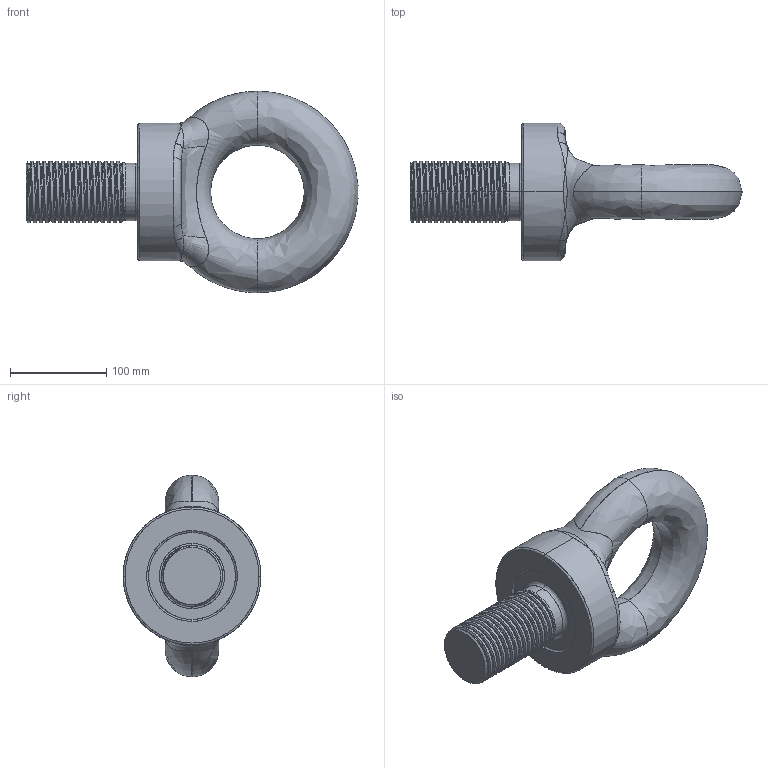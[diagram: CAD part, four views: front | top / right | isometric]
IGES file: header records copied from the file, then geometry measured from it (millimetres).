
Start section: SolidWorks IGES file using analytic representation for surfaces
Global section: file name: C:\Users\Brenton\Documents\Townley\Eye Bolts\Imperial\EBW2500\EBW2500.IGS; native system: SolidWorks 2012; preprocessor: SolidWorks 2012; author: Brenton; date: 140307.131346; units: millimetre
Bounding box: 344.3 x 143 x 209 mm (x, y, z)
Surface area: 146710 mm2 (no closed solid volume)
Topology: 0 solids, 0 shells, 79 faces, 2899 edges, 2893 vertices
Faces by surface type: revolution 43, bspline 36
